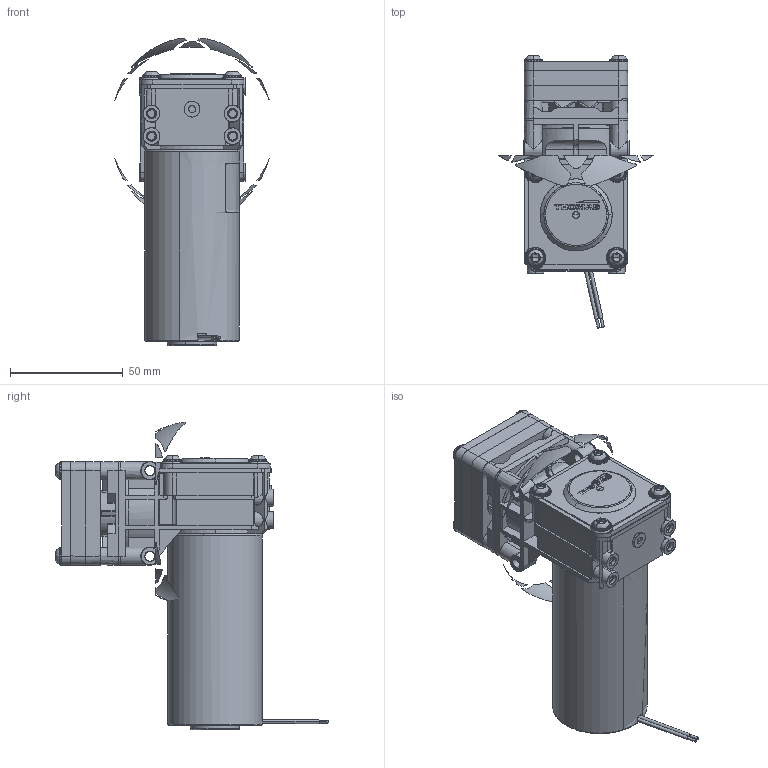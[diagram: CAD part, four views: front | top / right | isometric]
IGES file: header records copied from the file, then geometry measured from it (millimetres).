
Start section: SolidWorks IGES file using analytic representation for surfaces
Global section: file name: C:\Users\KXP2111\Desktop\MF20004-Desktop\Output\07 16100000-18\16100000-18_Kishan.IGS; native system: SolidWorks 2018; preprocessor: SolidWorks 2018; author: KXP2111; date: 190829.112431; units: millimetre
Bounding box: 68.42 x 120.81 x 136.44 mm (x, y, z)
Surface area: 42829.8 mm2 (no closed solid volume)
Topology: 0 solids, 0 shells, 1499 faces, 16938 edges, 16918 vertices
Faces by surface type: bspline 988, revolution 511
